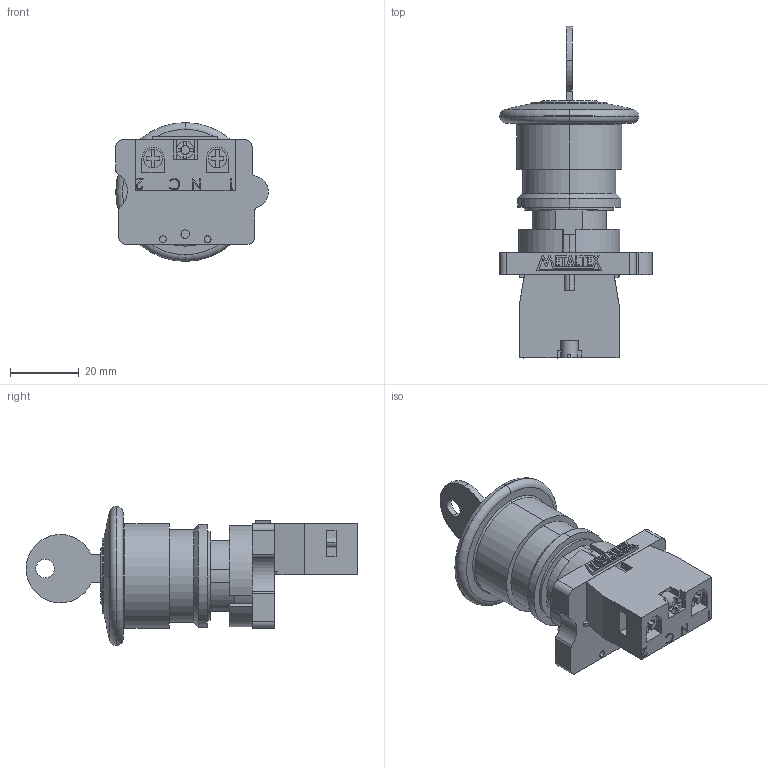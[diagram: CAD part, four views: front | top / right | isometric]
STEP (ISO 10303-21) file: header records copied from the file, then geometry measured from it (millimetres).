
FILE_DESCRIPTION (( 'STEP AP203' ), '1' );
FILE_NAME ('P20ACR-R-1B.STEP', '2018-01-17T13:44:00', ( '' ), ( '' ), 'SwSTEP 2.0', 'SolidWorks 2012', '' );
FILE_SCHEMA (( 'CONFIG_CONTROL_DESIGN' ));
Length unit declared in the file: millimetre
Products named in the file (4): P20ACR; P20ACR-R-1B; METALTEX 18,98; M20-1B
Assembly tree (3 placements, depth 2):
  P20ACR-R-1B
    P20ACR
    M20-1B
    METALTEX 18,98
Bounding box: 44.44 x 96.6 x 40.4 mm (x, y, z)
Volume: 47545.2 mm3; surface area: 14564.9 mm2
Topology: 9 solids, 9 shells, 378 faces, 977 edges, 644 vertices
Faces by surface type: plane 262, cylinder 83, bspline 15, torus 12, sphere 4, cone 2
Entity records: 12815 total; most frequent: CARTESIAN_POINT 3020, ORIENTED_EDGE 1954, DIRECTION 1919, EDGE_CURVE 977, LINE 713, VECTOR 713, VERTEX_POINT 644, AXIS2_PLACEMENT_3D 603
